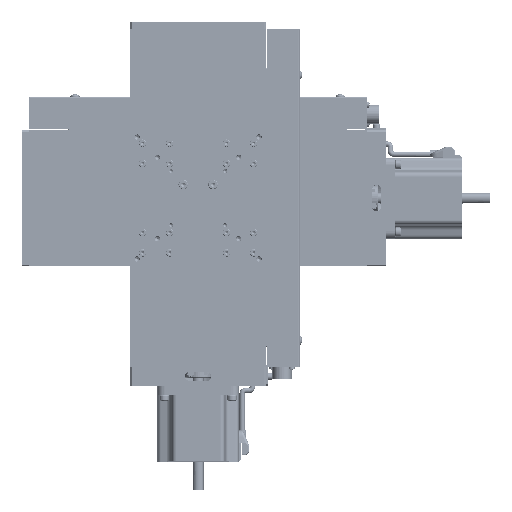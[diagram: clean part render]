
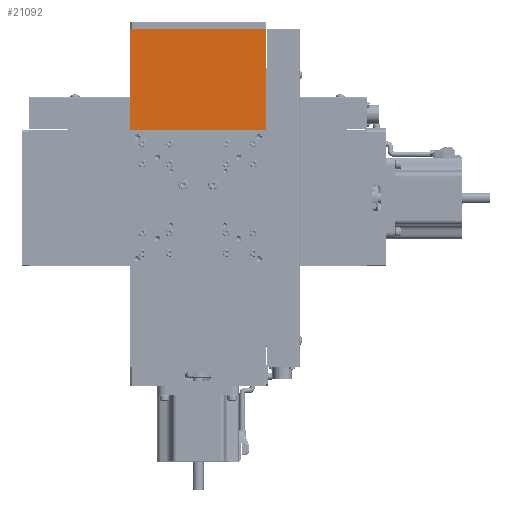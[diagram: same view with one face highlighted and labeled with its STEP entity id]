
A CAD part, top view. The second image highlights one B-rep face of the part: STEP entity #21092.
In plain terms, the highlighted planar face has unit normal (0, 0, 1).
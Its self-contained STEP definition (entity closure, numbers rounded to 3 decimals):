
#3153 = VERTEX_POINT ( 'NONE', #68570 ) ;
#7909 = VERTEX_POINT ( 'NONE', #32196 ) ;
#8779 = EDGE_CURVE ( 'NONE', #3153, #7909, #138489, .T. ) ;
#9749 = DIRECTION ( 'NONE',  ( 1., 0., 0. ) ) ;
#10268 = CARTESIAN_POINT ( 'NONE',  ( 50.2, 50., 49. ) ) ;
#16737 = ORIENTED_EDGE ( 'NONE', *, *, #75850, .T. ) ;
#21092 = ADVANCED_FACE ( 'NONE', ( #74215 ), #44254, .T. ) ;
#21369 = AXIS2_PLACEMENT_3D ( 'NONE', #10268, #114812, #9749 ) ;
#30377 = ORIENTED_EDGE ( 'NONE', *, *, #8779, .F. ) ;
#32196 = CARTESIAN_POINT ( 'NONE',  ( 124.8, -50., 49. ) ) ;
#35231 = VECTOR ( 'NONE', #150496, 1000. ) ;
#40906 = CARTESIAN_POINT ( 'NONE',  ( 50.2, 50., 49. ) ) ;
#42428 = ORIENTED_EDGE ( 'NONE', *, *, #131197, .T. ) ;
#44254 = PLANE ( 'NONE',  #21369 ) ;
#45341 = LINE ( 'NONE', #136250, #114423 ) ;
#46670 = EDGE_LOOP ( 'NONE', ( #30377, #108123, #16737, #42428 ) ) ;
#53853 = CARTESIAN_POINT ( 'NONE',  ( 50.2, -50., 49. ) ) ;
#54920 = VECTOR ( 'NONE', #121139, 1000. ) ;
#56740 = VECTOR ( 'NONE', #131417, 1000. ) ;
#65802 = LINE ( 'NONE', #40906, #54920 ) ;
#68570 = CARTESIAN_POINT ( 'NONE',  ( 124.8, 50., 49. ) ) ;
#73425 = LINE ( 'NONE', #103365, #35231 ) ;
#74215 = FACE_OUTER_BOUND ( 'NONE', #46670, .T. ) ;
#75850 = EDGE_CURVE ( 'NONE', #124590, #126836, #45341, .T. ) ;
#89554 = DIRECTION ( 'NONE',  ( 0., -1., 0. ) ) ;
#95718 = CARTESIAN_POINT ( 'NONE',  ( 50.2, 50., 49. ) ) ;
#102597 = EDGE_CURVE ( 'NONE', #124590, #3153, #65802, .T. ) ;
#103365 = CARTESIAN_POINT ( 'NONE',  ( 50.2, -50., 49. ) ) ;
#108123 = ORIENTED_EDGE ( 'NONE', *, *, #102597, .F. ) ;
#114423 = VECTOR ( 'NONE', #89554, 1000. ) ;
#114812 = DIRECTION ( 'NONE',  ( 0., 0., 1. ) ) ;
#119803 = CARTESIAN_POINT ( 'NONE',  ( 124.8, 50., 49. ) ) ;
#121139 = DIRECTION ( 'NONE',  ( 1., 0., 0. ) ) ;
#124590 = VERTEX_POINT ( 'NONE', #95718 ) ;
#126836 = VERTEX_POINT ( 'NONE', #53853 ) ;
#131197 = EDGE_CURVE ( 'NONE', #126836, #7909, #73425, .T. ) ;
#131417 = DIRECTION ( 'NONE',  ( 0., -1., 0. ) ) ;
#136250 = CARTESIAN_POINT ( 'NONE',  ( 50.2, 50., 49. ) ) ;
#138489 = LINE ( 'NONE', #119803, #56740 ) ;
#150496 = DIRECTION ( 'NONE',  ( 1., 0., 0. ) ) ;
